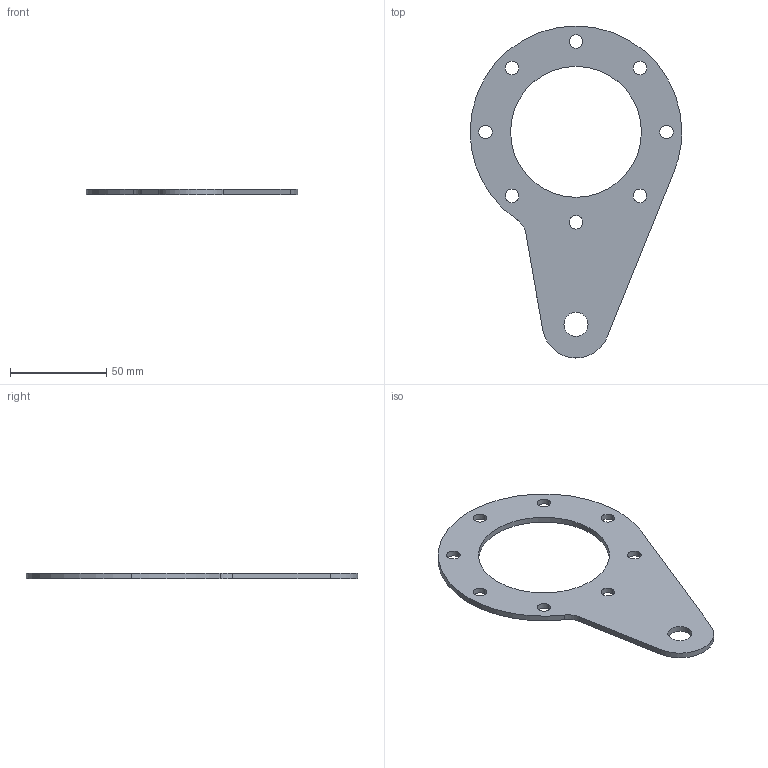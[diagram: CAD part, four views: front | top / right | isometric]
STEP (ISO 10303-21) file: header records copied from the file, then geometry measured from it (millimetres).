
FILE_DESCRIPTION (( 'STEP AP203' ), '1' );
FILE_NAME ('084.808.004.STEP', '2013-01-29T12:53:40', ( 'Alusic' ), ( 'Alusic' ), 'SwSTEP 2.0', 'SolidWorks 2011', '' );
FILE_SCHEMA (( 'CONFIG_CONTROL_DESIGN' ));
Length unit declared in the file: millimetre
Products named in the file (1): 084.808.004
Bounding box: 110 x 172.5 x 3 mm (x, y, z)
Volume: 25400.8 mm3; surface area: 19556.7 mm2
Topology: 1 solids, 1 shells, 29 faces, 81 edges, 54 vertices
Faces by surface type: cylinder 25, plane 4
Entity records: 1082 total; most frequent: DIRECTION 191, CARTESIAN_POINT 165, ORIENTED_EDGE 162, EDGE_CURVE 81, AXIS2_PLACEMENT_3D 80, VERTEX_POINT 54, CIRCLE 50, EDGE_LOOP 49
